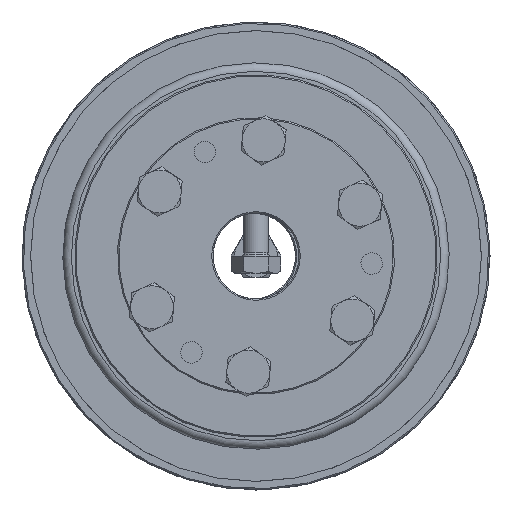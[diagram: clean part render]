
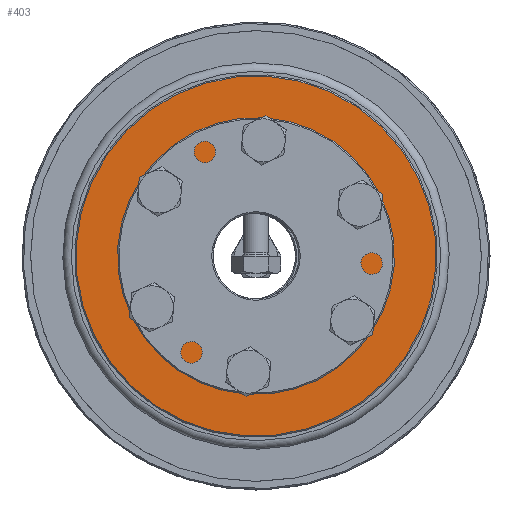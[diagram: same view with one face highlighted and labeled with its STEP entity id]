
A CAD part, left-side view. The second image highlights one B-rep face of the part: STEP entity #403.
In plain terms, the highlighted planar face has unit normal (-1, 0, 0) as drawn and (1, 0, 0) by its records, which use the part's own axes.
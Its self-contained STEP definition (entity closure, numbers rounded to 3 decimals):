
#403 = ADVANCED_FACE( 'NONE', ( #692, #693, #694, #695, #696, #697, #698, #699 ), #700, .F. );
#692 = FACE_OUTER_BOUND( '', #1444, .T. );
#693 = FACE_BOUND( '', #1445, .T. );
#694 = FACE_BOUND( '', #1446, .T. );
#695 = FACE_BOUND( '', #1447, .T. );
#696 = FACE_BOUND( '', #1448, .T. );
#697 = FACE_BOUND( '', #1449, .T. );
#698 = FACE_BOUND( '', #1450, .T. );
#699 = FACE_BOUND( '', #1451, .T. );
#700 = PLANE( '', #1452 );
#1444 = EDGE_LOOP( '', ( #2208 ) );
#1445 = EDGE_LOOP( '', ( #2209 ) );
#1446 = EDGE_LOOP( '', ( #2210 ) );
#1447 = EDGE_LOOP( '', ( #2211 ) );
#1448 = EDGE_LOOP( '', ( #2212 ) );
#1449 = EDGE_LOOP( '', ( #2213 ) );
#1450 = EDGE_LOOP( '', ( #2214 ) );
#1451 = EDGE_LOOP( '', ( #2215 ) );
#1452 = AXIS2_PLACEMENT_3D( '', #2216, #2217, #2218 );
#2208 = ORIENTED_EDGE( '', *, *, #3643, .T. );
#2209 = ORIENTED_EDGE( '', *, *, #3644, .T. );
#2210 = ORIENTED_EDGE( '', *, *, #3645, .F. );
#2211 = ORIENTED_EDGE( '', *, *, #3646, .F. );
#2212 = ORIENTED_EDGE( '', *, *, #3647, .F. );
#2213 = ORIENTED_EDGE( '', *, *, #3648, .F. );
#2214 = ORIENTED_EDGE( '', *, *, #3637, .F. );
#2215 = ORIENTED_EDGE( '', *, *, #3641, .F. );
#2216 = CARTESIAN_POINT( '', ( 20., 42.25, 0. ) );
#2217 = DIRECTION( '', ( -1., 0., 0. ) );
#2218 = DIRECTION( '', ( 0., 0., 1. ) );
#3637 = EDGE_CURVE( 'NONE', #3999, #3999, #4000, .T. );
#3641 = EDGE_CURVE( 'NONE', #4007, #4007, #4008, .T. );
#3643 = EDGE_CURVE( 'NONE', #4011, #4011, #4012, .T. );
#3644 = EDGE_CURVE( 'NONE', #4013, #4013, #4014, .T. );
#3645 = EDGE_CURVE( 'NONE', #4015, #4015, #4016, .T. );
#3646 = EDGE_CURVE( 'NONE', #4017, #4017, #4018, .T. );
#3647 = EDGE_CURVE( 'NONE', #4019, #4019, #4020, .T. );
#3648 = EDGE_CURVE( 'NONE', #4021, #4021, #4022, .T. );
#3999 = VERTEX_POINT( '', #4639 );
#4000 = CIRCLE( '', #4640, 3. );
#4007 = VERTEX_POINT( '', #4647 );
#4008 = CIRCLE( '', #4648, 3. );
#4011 = VERTEX_POINT( '', #4651 );
#4012 = CIRCLE( '', #4652, 41.95 );
#4013 = VERTEX_POINT( '', #4653 );
#4014 = CIRCLE( '', #4654, 23.558 );
#4015 = VERTEX_POINT( '', #4655 );
#4016 = CIRCLE( '', #4656, 3. );
#4017 = VERTEX_POINT( '', #4657 );
#4018 = CIRCLE( '', #4658, 3. );
#4019 = VERTEX_POINT( '', #4659 );
#4020 = CIRCLE( '', #4660, 3. );
#4021 = VERTEX_POINT( '', #4661 );
#4022 = CIRCLE( '', #4662, 3. );
#4639 = CARTESIAN_POINT( '', ( 20., -27., -3. ) );
#4640 = AXIS2_PLACEMENT_3D( '', #5783, #5784, #5785 );
#4647 = CARTESIAN_POINT( '', ( 20., 13.5, 20.383 ) );
#4648 = AXIS2_PLACEMENT_3D( '', #5795, #5796, #5797 );
#4651 = CARTESIAN_POINT( '', ( 20., 0., 41.95 ) );
#4652 = AXIS2_PLACEMENT_3D( '', #5801, #5802, #5803 );
#4653 = CARTESIAN_POINT( '', ( 20., 0., 23.558 ) );
#4654 = AXIS2_PLACEMENT_3D( '', #5804, #5805, #5806 );
#4655 = CARTESIAN_POINT( '', ( 20., -13.5, 20.383 ) );
#4656 = AXIS2_PLACEMENT_3D( '', #5807, #5808, #5809 );
#4657 = CARTESIAN_POINT( '', ( 20., 27., -3. ) );
#4658 = AXIS2_PLACEMENT_3D( '', #5810, #5811, #5812 );
#4659 = CARTESIAN_POINT( '', ( 20., 13.5, -26.383 ) );
#4660 = AXIS2_PLACEMENT_3D( '', #5813, #5814, #5815 );
#4661 = CARTESIAN_POINT( '', ( 20., -13.5, -26.383 ) );
#4662 = AXIS2_PLACEMENT_3D( '', #5816, #5817, #5818 );
#5783 = CARTESIAN_POINT( '', ( 20., -27., 0. ) );
#5784 = DIRECTION( '', ( 1., 0., 0. ) );
#5785 = DIRECTION( '', ( 0., 0., -1. ) );
#5795 = CARTESIAN_POINT( '', ( 20., 13.5, 23.383 ) );
#5796 = DIRECTION( '', ( 1., 0., 0. ) );
#5797 = DIRECTION( '', ( 0., 0., -1. ) );
#5801 = CARTESIAN_POINT( '', ( 20., 0., 0. ) );
#5802 = DIRECTION( '', ( 1., 0., 0. ) );
#5803 = DIRECTION( '', ( 0., 0., 1. ) );
#5804 = CARTESIAN_POINT( '', ( 20., 0., 0. ) );
#5805 = DIRECTION( '', ( -1., 0., 0. ) );
#5806 = DIRECTION( '', ( 0., 0., 1. ) );
#5807 = CARTESIAN_POINT( '', ( 20., -13.5, 23.383 ) );
#5808 = DIRECTION( '', ( 1., 0., 0. ) );
#5809 = DIRECTION( '', ( 0., 0., -1. ) );
#5810 = CARTESIAN_POINT( '', ( 20., 27., 0. ) );
#5811 = DIRECTION( '', ( 1., 0., 0. ) );
#5812 = DIRECTION( '', ( 0., 0., -1. ) );
#5813 = CARTESIAN_POINT( '', ( 20., 13.5, -23.383 ) );
#5814 = DIRECTION( '', ( 1., 0., 0. ) );
#5815 = DIRECTION( '', ( 0., 0., -1. ) );
#5816 = CARTESIAN_POINT( '', ( 20., -13.5, -23.383 ) );
#5817 = DIRECTION( '', ( 1., 0., 0. ) );
#5818 = DIRECTION( '', ( 0., 0., -1. ) );
